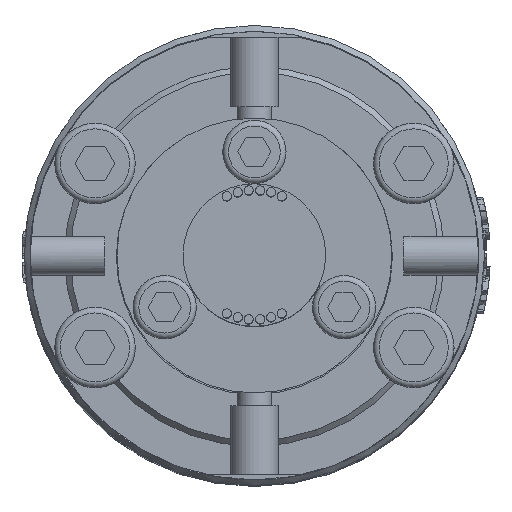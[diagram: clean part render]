
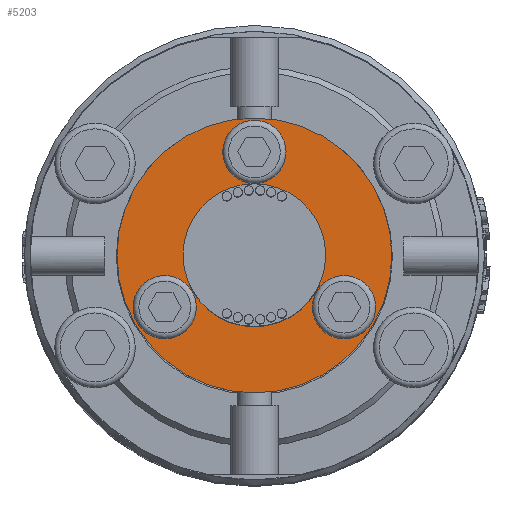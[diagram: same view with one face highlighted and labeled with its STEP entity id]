
A CAD part, top view. The second image highlights one B-rep face of the part: STEP entity #5203.
In plain terms, the highlighted planar face has unit normal (0, 0, 1).
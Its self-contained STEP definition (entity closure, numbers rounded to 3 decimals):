
#5203=ADVANCED_FACE('',(#6721,#6722,#6723,#6724,#6725),#6208,.T.);
#6208=PLANE('',#18114);
#6721=FACE_BOUND('',#7129,.T.);
#6722=FACE_BOUND('',#7130,.T.);
#6723=FACE_BOUND('',#7131,.T.);
#6724=FACE_BOUND('',#7132,.T.);
#6725=FACE_BOUND('',#7133,.T.);
#7129=EDGE_LOOP('',(#8500));
#7130=EDGE_LOOP('',(#8501));
#7131=EDGE_LOOP('',(#8502));
#7132=EDGE_LOOP('',(#8503));
#7133=EDGE_LOOP('',(#8504));
#8500=ORIENTED_EDGE('',*,*,#15300,.F.);
#8501=ORIENTED_EDGE('',*,*,#15301,.F.);
#8502=ORIENTED_EDGE('',*,*,#15302,.F.);
#8503=ORIENTED_EDGE('',*,*,#15299,.F.);
#8504=ORIENTED_EDGE('',*,*,#15303,.F.);
#13504=VERTEX_POINT('',#22019);
#13505=VERTEX_POINT('',#22022);
#13506=VERTEX_POINT('',#22024);
#13507=VERTEX_POINT('',#22026);
#13508=VERTEX_POINT('',#22028);
#15299=EDGE_CURVE('',#13504,#13504,#17801,.T.);
#15300=EDGE_CURVE('',#13505,#13505,#17802,.T.);
#15301=EDGE_CURVE('',#13506,#13506,#17803,.T.);
#15302=EDGE_CURVE('',#13507,#13507,#17804,.T.);
#15303=EDGE_CURVE('',#13508,#13508,#17805,.T.);
#17801=CIRCLE('',#18108,6.2);
#17802=CIRCLE('',#18110,2.75);
#17803=CIRCLE('',#18111,2.75);
#17804=CIRCLE('',#18112,2.75);
#17805=CIRCLE('',#18113,11.95);
#18108=AXIS2_PLACEMENT_3D('',#22018,#19237,#19238);
#18110=AXIS2_PLACEMENT_3D('',#22021,#19241,#19242);
#18111=AXIS2_PLACEMENT_3D('',#22023,#19243,#19244);
#18112=AXIS2_PLACEMENT_3D('',#22025,#19245,#19246);
#18113=AXIS2_PLACEMENT_3D('',#22027,#19247,#19248);
#18114=AXIS2_PLACEMENT_3D('',#22029,#19249,#19250);
#19237=DIRECTION('',(0.,0.,1.));
#19238=DIRECTION('',(0.,1.,0.));
#19241=DIRECTION('',(0.,0.,1.));
#19242=DIRECTION('',(1.,0.,0.));
#19243=DIRECTION('',(0.,0.,1.));
#19244=DIRECTION('',(-0.5,0.866,0.));
#19245=DIRECTION('',(0.,0.,1.));
#19246=DIRECTION('',(-0.5,-0.866,0.));
#19247=DIRECTION('',(0.,0.,-1.));
#19248=DIRECTION('',(0.,1.,0.));
#19249=DIRECTION('',(0.,0.,1.));
#19250=DIRECTION('',(0.,1.,0.));
#22018=CARTESIAN_POINT('',(0.,0.,64.5));
#22019=CARTESIAN_POINT('',(0.,6.2,64.5));
#22021=CARTESIAN_POINT('',(0.,9.,64.5));
#22022=CARTESIAN_POINT('',(2.75,9.,64.5));
#22023=CARTESIAN_POINT('',(-7.794,-4.5,64.5));
#22024=CARTESIAN_POINT('',(-9.169,-2.118,64.5));
#22025=CARTESIAN_POINT('',(7.794,-4.5,64.5));
#22026=CARTESIAN_POINT('',(6.419,-6.882,64.5));
#22027=CARTESIAN_POINT('',(0.,0.,64.5));
#22028=CARTESIAN_POINT('',(0.,11.95,64.5));
#22029=CARTESIAN_POINT('',(0.,0.,64.5));
